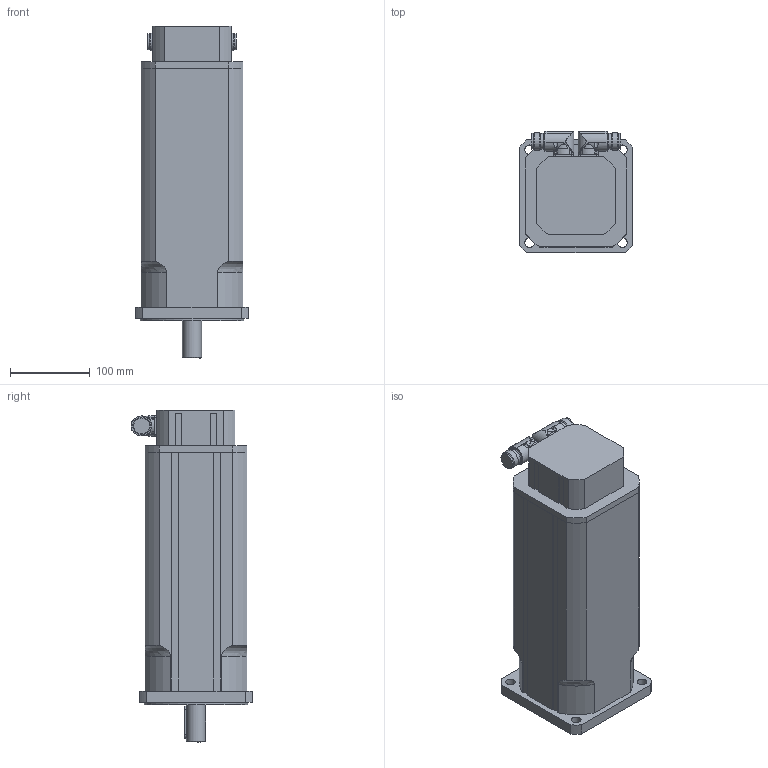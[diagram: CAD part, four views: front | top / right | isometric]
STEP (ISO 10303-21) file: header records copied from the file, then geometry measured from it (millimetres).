
FILE_DESCRIPTION(/* description */ ('Alibre Inc.'),/* implementation_level */ '2;1');
FILE_NAME(/* name */ 'export2',/* time_stamp */ '2013-07-29T08:42:35+02:00',/* author */ (''),/* organization */ (''),/* preprocessor_version */ 'ST-DEVELOPER v12',/* originating_system */ 'Alibre',/* authorisation */ '');
FILE_SCHEMA (('CONFIG_CONTROL_DESIGN'));
Length unit declared in the file: millimetre
Products named in the file (6): ID_1
Bounding box: 142 x 152 x 417 mm (x, y, z)
Volume: 5569999.1 mm3; surface area: 289922.6 mm2
Topology: 6 solids, 6 shells, 244 faces, 658 edges, 437 vertices
Faces by surface type: cylinder 119, plane 109, cone 10, torus 4, bspline 2
Full cylindrical faces by diameter (mm): 2.7 x8, 6.647 x1, 12 x4, 20 x8, 22 x4, 24 x1, 130 x1
Entity records: 6584 total; most frequent: CARTESIAN_POINT 1648, ORIENTED_EDGE 880, DIRECTION 849, EDGE_CURVE 440, AXIS2_PLACEMENT_3D 345, VERTEX_POINT 308, VECTOR 247, LINE 247
